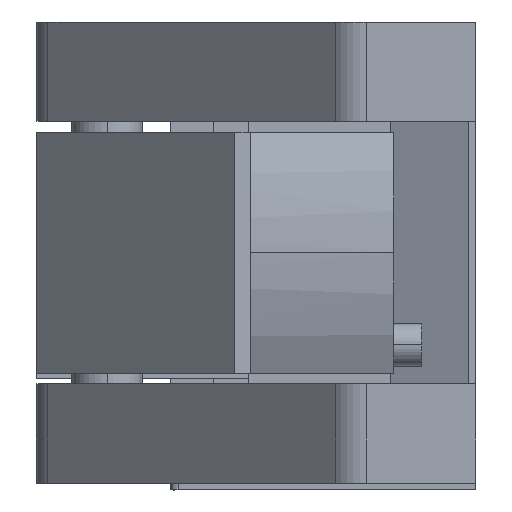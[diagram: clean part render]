
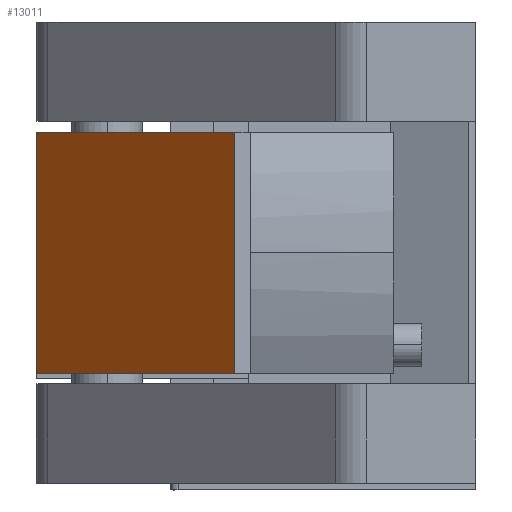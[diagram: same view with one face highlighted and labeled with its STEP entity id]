
A CAD part, left-side view. The second image highlights one B-rep face of the part: STEP entity #13011.
In plain terms, the highlighted planar face has unit normal (-0.682, 0.731, 0) as drawn and (0.682, 0, -0.731) by its records, which use the part's own axes.
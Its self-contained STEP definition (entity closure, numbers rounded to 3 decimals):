
#633 = CARTESIAN_POINT ( 'NONE',  ( 42.667, 17., -14. ) ) ;
#1088 = DIRECTION ( 'NONE',  ( -0.682, 0., 0.731 ) ) ;
#1822 = ORIENTED_EDGE ( 'NONE', *, *, #2797, .T. ) ;
#2557 = LINE ( 'NONE', #11071, #12669 ) ;
#2590 = EDGE_CURVE ( 'NONE', #13260, #11510, #2990, .T. ) ;
#2695 = VECTOR ( 'NONE', #26022, 1000. ) ;
#2722 = DIRECTION ( 'NONE',  ( -0.731, 0., -0.682 ) ) ;
#2797 = EDGE_CURVE ( 'NONE', #13260, #18256, #11107, .T. ) ;
#2990 = LINE ( 'NONE', #633, #23179 ) ;
#5414 = CARTESIAN_POINT ( 'NONE',  ( 42.667, 0., -14. ) ) ;
#7870 = CARTESIAN_POINT ( 'NONE',  ( 42.667, 17., -14. ) ) ;
#10971 = EDGE_CURVE ( 'NONE', #11510, #18747, #2557, .T. ) ;
#11071 = CARTESIAN_POINT ( 'NONE',  ( 42.667, 17., -14. ) ) ;
#11107 = LINE ( 'NONE', #17536, #2695 ) ;
#11510 = VERTEX_POINT ( 'NONE', #7870 ) ;
#11824 = LINE ( 'NONE', #5414, #18126 ) ;
#11841 = PLANE ( 'NONE',  #21571 ) ;
#12669 = VECTOR ( 'NONE', #17635, 1000. ) ;
#13011 = ADVANCED_FACE ( 'NONE', ( #22723 ), #11841, .F. ) ;
#13260 = VERTEX_POINT ( 'NONE', #18334 ) ;
#13606 = ORIENTED_EDGE ( 'NONE', *, *, #17170, .T. ) ;
#14349 = DIRECTION ( 'NONE',  ( 0.731, 0., 0.682 ) ) ;
#15933 = EDGE_LOOP ( 'NONE', ( #13606, #18938, #25691, #1822 ) ) ;
#17170 = EDGE_CURVE ( 'NONE', #18256, #18747, #11824, .T. ) ;
#17536 = CARTESIAN_POINT ( 'NONE',  ( 57.667, 17., 0. ) ) ;
#17635 = DIRECTION ( 'NONE',  ( 0., -1., 0. ) ) ;
#18126 = VECTOR ( 'NONE', #19941, 1000. ) ;
#18256 = VERTEX_POINT ( 'NONE', #24997 ) ;
#18334 = CARTESIAN_POINT ( 'NONE',  ( 57.667, 17., 0. ) ) ;
#18747 = VERTEX_POINT ( 'NONE', #25495 ) ;
#18938 = ORIENTED_EDGE ( 'NONE', *, *, #10971, .F. ) ;
#19941 = DIRECTION ( 'NONE',  ( -0.731, 0., -0.682 ) ) ;
#21571 = AXIS2_PLACEMENT_3D ( 'NONE', #26756, #1088, #14349 ) ;
#22723 = FACE_OUTER_BOUND ( 'NONE', #15933, .T. ) ;
#23179 = VECTOR ( 'NONE', #2722, 1000. ) ;
#24997 = CARTESIAN_POINT ( 'NONE',  ( 57.667, 0., 0. ) ) ;
#25495 = CARTESIAN_POINT ( 'NONE',  ( 42.667, 0., -14. ) ) ;
#25691 = ORIENTED_EDGE ( 'NONE', *, *, #2590, .F. ) ;
#26022 = DIRECTION ( 'NONE',  ( 0., -1., 0. ) ) ;
#26756 = CARTESIAN_POINT ( 'NONE',  ( 42.667, 17., -14. ) ) ;
